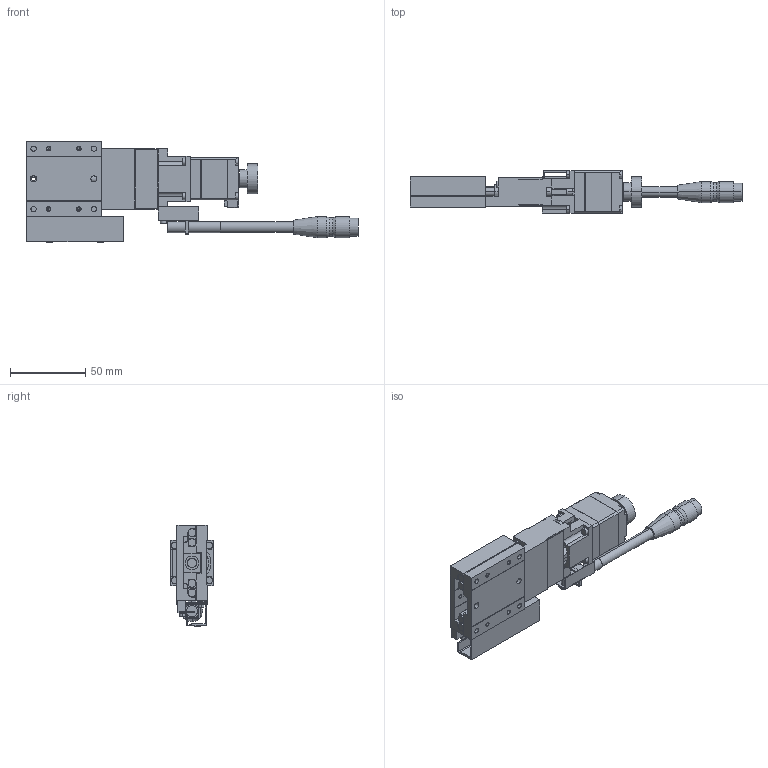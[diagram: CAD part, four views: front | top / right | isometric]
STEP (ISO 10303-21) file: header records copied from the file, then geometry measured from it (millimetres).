
FILE_DESCRIPTION(('STEP AP203'),'1');
FILE_NAME('C:/3D-Trans/3D_PG513T-R□-C4+231013.step','2023-10-13T07:17:02',(' '),(' '),'Spatial InterOp 3D',' ',' ');
FILE_SCHEMA(('CONFIG_CONTROL_DESIGN'));
Length unit declared in the file: millimetre
Products named in the file (6): 1; 2; 3; 4; 5; 6
Bounding box: 220 x 28 x 67.4 mm (x, y, z)
Volume: 104287 mm3; surface area: 52366.5 mm2
Topology: 6 solids, 6 shells, 770 faces, 1944 edges, 1236 vertices
Faces by surface type: plane 429, cylinder 258, cone 82, extrusion 1
Entity records: 23569 total; most frequent: CARTESIAN_POINT 4290, DIRECTION 4084, ORIENTED_EDGE 3848, EDGE_CURVE 1924, AXIS2_PLACEMENT_3D 1406, VECTOR 1272, LINE 1271, VERTEX_POINT 1236
